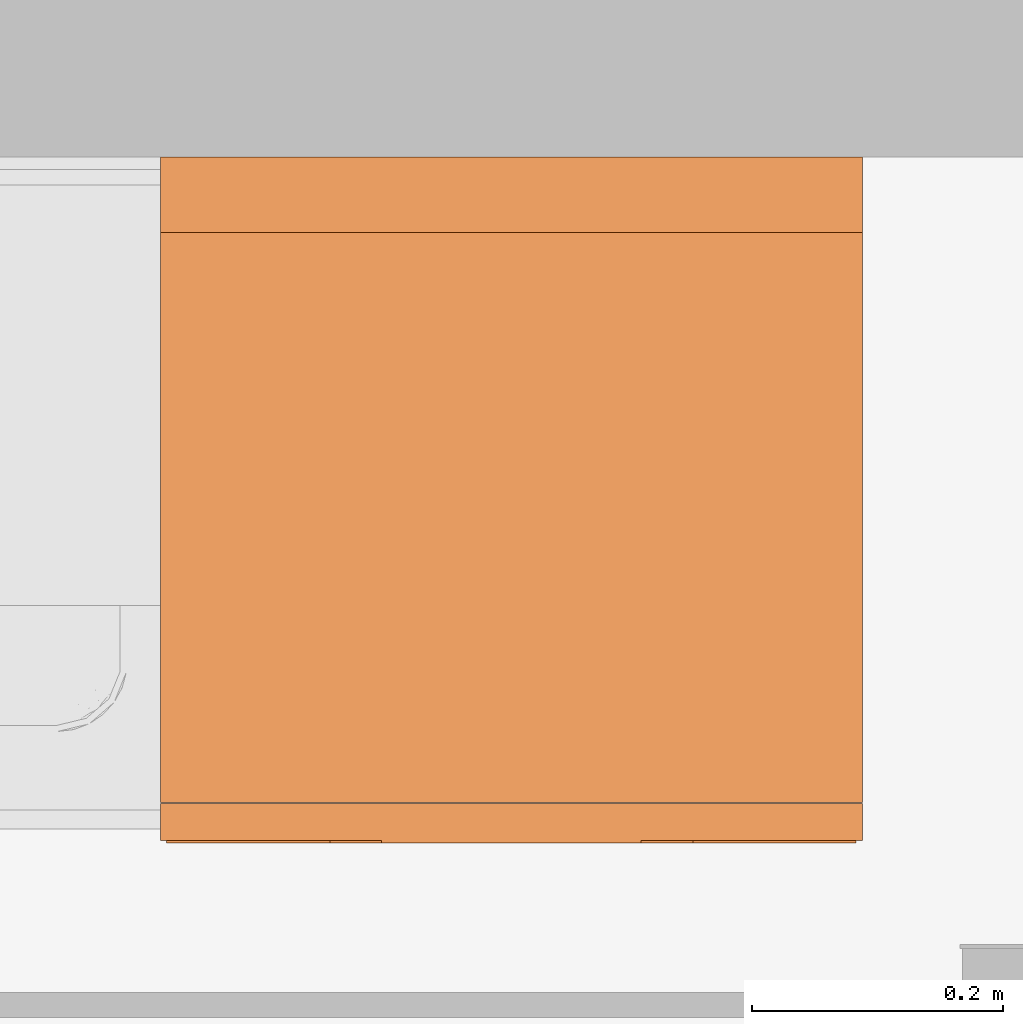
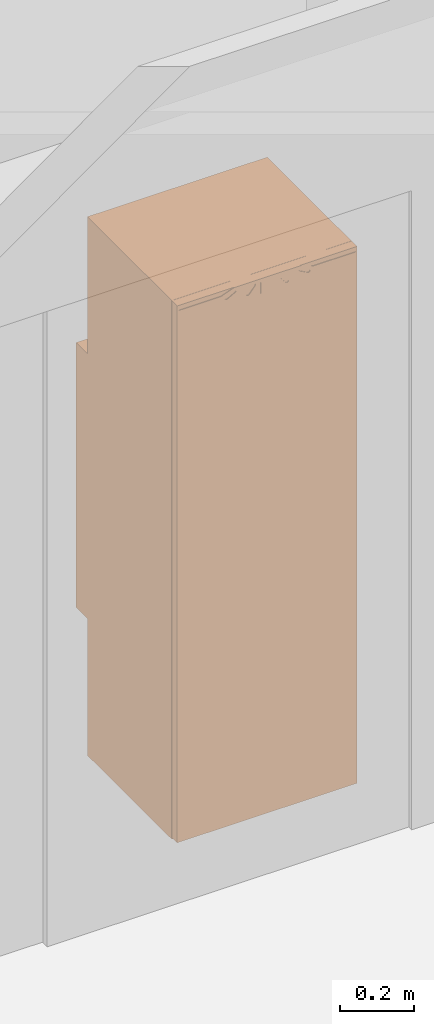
# One storey, part 31 of 32: 1 proxy.
"""IFC2X3 building model written with IfcOpenShell, lengths in metres."""

from ifc_helpers import new_model, entity, si_unit, converted_unit, derived_unit, direction, frame, frame_2d, origin, origin_2d_with_axis, place, context, subcontext, project, spatial, polyline, circle_curve, parameter, trimmed, segment, composite_curve, rectangle, circle, outline, extrude, source, transform, mapped, material, material_list, type_object, type_shapes, element, save


model = new_model("IFC2X3")

# Units and contexts
model_context = context("Model", 3, precision=1e-05, world=origin(), true_north=direction((6.12303176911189e-17, 1.0)))
plan_context = context("Plan", 3, precision=1e-05, world=origin(), true_north=direction((6.12303176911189e-17, 1.0)))
body_context = subcontext(model_context, "Body", "Model", "MODEL_VIEW")
ifc_project = project(units=[si_unit("LENGTHUNIT", "METRE"), si_unit("AREAUNIT", "SQUARE_METRE"), si_unit("VOLUMEUNIT", "CUBIC_METRE"), converted_unit("PLANEANGLEUNIT", "DEGREE", entity("IfcRatioMeasure", 0.0174532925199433), si_unit("PLANEANGLEUNIT", "RADIAN"), dimensions=[0, 0, 0, 0, 0, 0, 0]), si_unit("MASSUNIT", "GRAM", prefix="KILO"), derived_unit("MASSDENSITYUNIT", [(si_unit("MASSUNIT", "GRAM", prefix="KILO"), 1), (si_unit("LENGTHUNIT", "METRE"), -3)]), derived_unit("MOMENTOFINERTIAUNIT", [(si_unit("LENGTHUNIT", "METRE"), 4)]), si_unit("TIMEUNIT", "SECOND"), si_unit("FREQUENCYUNIT", "HERTZ"), si_unit("THERMODYNAMICTEMPERATUREUNIT", "DEGREE_CELSIUS"), derived_unit("THERMALTRANSMITTANCEUNIT", [(si_unit("MASSUNIT", "GRAM", prefix="KILO"), 1), (si_unit("THERMODYNAMICTEMPERATUREUNIT", "KELVIN"), -1), (si_unit("TIMEUNIT", "SECOND"), -3)]), derived_unit("VOLUMETRICFLOWRATEUNIT", [(si_unit("LENGTHUNIT", "METRE"), 3), (si_unit("TIMEUNIT", "SECOND"), -1)]), si_unit("ELECTRICCURRENTUNIT", "AMPERE"), si_unit("ELECTRICVOLTAGEUNIT", "VOLT"), si_unit("POWERUNIT", "WATT"), si_unit("FORCEUNIT", "NEWTON", prefix="KILO"), si_unit("ILLUMINANCEUNIT", "LUX"), si_unit("LUMINOUSFLUXUNIT", "LUMEN"), si_unit("LUMINOUSINTENSITYUNIT", "CANDELA"), derived_unit("USERDEFINED", [(si_unit("MASSUNIT", "GRAM", prefix="KILO"), -1), (si_unit("LENGTHUNIT", "METRE"), -2), (si_unit("TIMEUNIT", "SECOND"), 3), (si_unit("LUMINOUSFLUXUNIT", "LUMEN"), 1)]), derived_unit("LINEARVELOCITYUNIT", [(si_unit("LENGTHUNIT", "METRE"), 1), (si_unit("TIMEUNIT", "SECOND"), -1)]), si_unit("PRESSUREUNIT", "PASCAL"), derived_unit("USERDEFINED", [(si_unit("LENGTHUNIT", "METRE"), -2), (si_unit("MASSUNIT", "GRAM", prefix="KILO"), 1), (si_unit("TIMEUNIT", "SECOND"), -2)]), derived_unit("LINEARFORCEUNIT", [(si_unit("MASSUNIT", "GRAM", prefix="KILO"), 1), (si_unit("LENGTHUNIT", "METRE"), 1), (si_unit("TIMEUNIT", "SECOND"), -2), (si_unit("LENGTHUNIT", "METRE"), -1)]), derived_unit("PLANARFORCEUNIT", [(si_unit("MASSUNIT", "GRAM", prefix="KILO"), 1), (si_unit("LENGTHUNIT", "METRE"), 1), (si_unit("TIMEUNIT", "SECOND"), -2), (si_unit("LENGTHUNIT", "METRE"), -2)])], contexts=[model_context, plan_context])

# Site, building, storey, space
site_placement = place(None, origin())
site = spatial("IfcSite", under=ifc_project, at=site_placement, Name="Default", CompositionType="ELEMENT")
building_placement = place(site_placement, origin())
building = spatial("IfcBuilding", under=site, at=building_placement, CompositionType="ELEMENT")
storey_placement = place(building_placement, origin())
storey = spatial("IfcBuildingStorey", under=building, at=storey_placement, Name="0 Mairie RDC 0.00", CompositionType="ELEMENT", Elevation=-1.94916083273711e-14)
space_placement = place(storey_placement, origin())
space = spatial("IfcSpace", under=storey, at=space_placement, Name="8", CompositionType="ELEMENT", InteriorOrExteriorSpace="INTERNAL")

# Proxy
ifc_material_1 = material(Name="<Unnamed>")
ifc_material_2 = material(Name="Aluminum")
ifc_material_3 = material(Name="Default")
ifc_material_list_1 = material_list([ifc_material_1, ifc_material_2, ifc_material_3, ifc_material_3])
ifc_material_list_2 = material_list([ifc_material_1, ifc_material_2, ifc_material_3, ifc_material_3])
building_element_proxy_type = type_object("IfcBuildingElementProxyType", Name="Installations électriques : HAFELE Appliances Refrigerator SIKB3550 : Built-in-Fridge_534.16.130", PredefinedType="NOTDEFINED", material=ifc_material_list_2)
shared_shape = source(origin(), body_context, "Body", "SweptSolid", [
    extrude(circle(Radius=0.0075, at=origin_2d_with_axis()), frame((0.0944703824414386, 0.158876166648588, 0.0)), (0.0, 0.0, 1.0), 0.16784905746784),
    extrude(outline(polyline([(-0.0227551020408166, -0.274499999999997), (0.0122448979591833, -0.274499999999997), (0.0122448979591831, -0.144499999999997), (0.0272448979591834, -0.103287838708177), (0.0272448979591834, 0.103287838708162), (0.0122448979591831, 0.144499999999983), (0.0122448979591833, 0.274500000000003), (-0.0227551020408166, 0.274500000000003), (-0.0227551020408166, 0.0500000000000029), (0.0165306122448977, 0.0200000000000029), (-0.0227551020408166, 0.0200000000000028), (-0.0227551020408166, -0.0199999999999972), (0.0165306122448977, -0.0199999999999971), (-0.0227551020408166, -0.0499999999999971), (-0.0227551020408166, -0.274499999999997)]), holes=[composite_curve([segment(trimmed(circle_curve(frame_2d((-0.00835453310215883, -0.0608146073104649), x_axis=(0.0, 1.0)), 0.0051895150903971), [parameter(40.1097249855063)], [parameter(220.109724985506)], True, "PARAMETER"), False, "CONTINUOUS"), segment(polyline([(-0.0116978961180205, -0.0568456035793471), (0.00977593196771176, -0.038756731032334)]), True, "CONTINUOUS"), segment(trimmed(circle_curve(frame_2d((0.0131192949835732, -0.0427257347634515), x_axis=(0.0, 1.0)), 0.0051895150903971), [parameter(220.109724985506)], [parameter(40.1097249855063)], True, "PARAMETER"), False, "CONTINUOUS"), segment(polyline([(0.0164626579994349, -0.0466947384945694), (-0.0050111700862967, -0.064783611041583)]), True, "CONTINUOUS")], self_intersect=False), composite_curve([segment(trimmed(circle_curve(frame_2d((0.00161083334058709, -0.127301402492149), x_axis=(0.0, 1.0)), 0.0051895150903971), [parameter(61.6824450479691)], [parameter(241.682445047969)], True, "PARAMETER"), False, "CONTINUOUS"), segment(polyline([(-0.00295766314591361, -0.124839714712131), (0.0103610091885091, -0.100122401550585)]), True, "CONTINUOUS"), segment(trimmed(circle_curve(frame_2d((0.0149295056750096, -0.102584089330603), x_axis=(0.0, 1.0)), 0.0051895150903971), [parameter(241.682445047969)], [parameter(61.6824450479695)], True, "PARAMETER"), False, "CONTINUOUS"), segment(polyline([(0.0194980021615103, -0.105045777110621), (0.0061793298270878, -0.129763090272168)]), True, "CONTINUOUS")], self_intersect=False), composite_curve([segment(polyline([(-0.0050111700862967, 0.0647836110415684), (0.0164626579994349, 0.0466947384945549)]), True, "CONTINUOUS"), segment(trimmed(circle_curve(frame_2d((0.0131192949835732, 0.042725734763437), x_axis=(0.0, 1.0)), 0.0051895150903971), [parameter(139.890275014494)], [parameter(319.890275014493)], True, "PARAMETER"), False, "CONTINUOUS"), segment(polyline([(0.00977593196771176, 0.0387567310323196), (-0.0116978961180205, 0.0568456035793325)]), True, "CONTINUOUS"), segment(trimmed(circle_curve(frame_2d((-0.00835453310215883, 0.0608146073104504), x_axis=(0.0, 1.0)), 0.0051895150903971), [parameter(319.890275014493)], [parameter(139.890275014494)], True, "PARAMETER"), False, "CONTINUOUS")], self_intersect=False), composite_curve([segment(polyline([(0.0061793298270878, 0.129763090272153), (0.0194980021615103, 0.105045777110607)]), True, "CONTINUOUS"), segment(trimmed(circle_curve(frame_2d((0.0149295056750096, 0.102584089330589), x_axis=(0.0, 1.0)), 0.0051895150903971), [parameter(118.317554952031)], [parameter(298.317554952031)], True, "PARAMETER"), False, "CONTINUOUS"), segment(polyline([(0.0103610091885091, 0.100122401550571), (-0.00295766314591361, 0.124839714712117)]), True, "CONTINUOUS"), segment(trimmed(circle_curve(frame_2d((0.00161083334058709, 0.127301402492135), x_axis=(0.0, 1.0)), 0.0051895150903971), [parameter(298.317554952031)], [parameter(118.317554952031)], True, "PARAMETER"), False, "CONTINUOUS")], self_intersect=False)]), frame((0.279499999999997, 0.0, 1.76060415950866), z_axis=(0.0, 1.0, 0.0), x_axis=(0.0, 0.0, 1.0)), (0.0, 0.0, 1.0), 0.00200000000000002),
    extrude(rectangle(XDim=0.0295, YDim=0.559, at=frame_2d((-3.38271077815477e-17, 0.0), x_axis=(1.0, 0.0))), frame((0.2795, 0.0167500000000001, 0.0238490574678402), z_axis=(0.0, 0.0, 1.0), x_axis=(0.0, 1.0, 0.0)), (0.0, 0.0, 1.0), 1.764),
    extrude(outline(polyline([(-0.0985, -0.885), (0.3555, -0.885), (0.3555, 0.885), (-0.0985, 0.885), (-0.0985000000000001, 0.435), (-0.1585, 0.435), (-0.1585, -0.435), (-0.0985, -0.435), (-0.0985, -0.885)])), frame((0.0, 0.3875, 0.90284905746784), z_axis=(1.0, 0.0, 0.0), x_axis=(0.0, -1.0, 0.0)), (0.0, 0.0, 1.0), 0.559),
])
type_shapes(building_element_proxy_type, [shared_shape])
proxy_placement = place(space_placement, frame((1.06224474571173, -2.5187637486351, 0.0621509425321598)))
element("IfcBuildingElementProxy", 1, at=proxy_placement, inside=space, type_object=building_element_proxy_type, material=ifc_material_list_1, Name="Installations électriques : HAFELE Appliances Refrigerator SIKB3550 : Built-in-Fridge_534.16.130", ObjectType="HAFELE Appliances Refrigerator SIKB3550:Built-in-Fridge_534.16.130", context=body_context, shape_type="MappedRepresentation", body=[
    mapped(shared_shape, transform((0.0, 0.0, 0.0), scale=1.0)),
])

save(model, "model.ifc")
